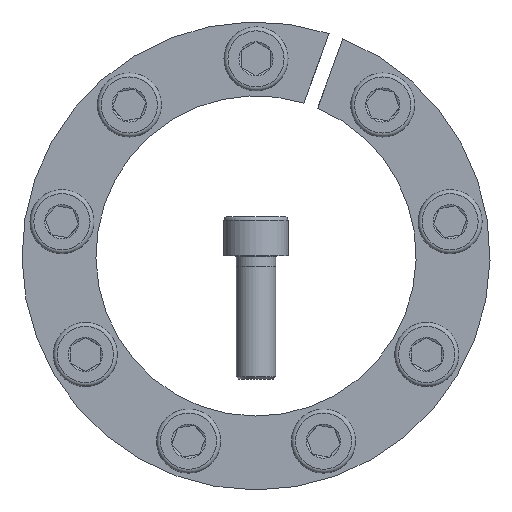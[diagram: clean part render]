
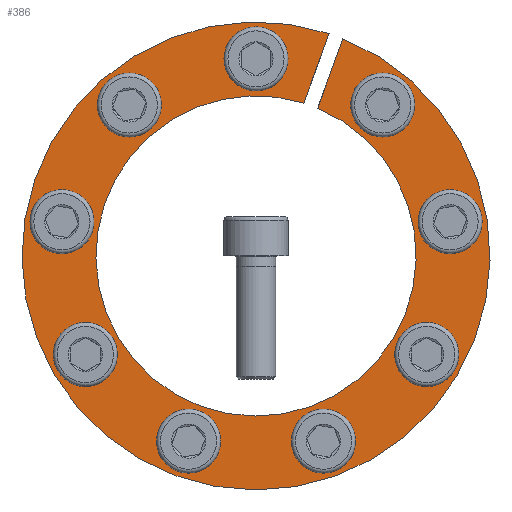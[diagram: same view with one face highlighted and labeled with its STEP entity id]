
A CAD part, front view. The second image highlights one B-rep face of the part: STEP entity #386.
In plain terms, the highlighted planar face has unit normal (0, -1, 0).
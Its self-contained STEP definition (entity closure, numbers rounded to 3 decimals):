
#386 = ADVANCED_FACE( '', ( #591, #592, #593, #594, #595, #596, #597, #598, #599, #600 ), #601, .F. );
#591 = FACE_BOUND( '', #765, .T. );
#592 = FACE_BOUND( '', #766, .T. );
#593 = FACE_BOUND( '', #767, .T. );
#594 = FACE_BOUND( '', #768, .T. );
#595 = FACE_OUTER_BOUND( '', #769, .T. );
#596 = FACE_BOUND( '', #770, .T. );
#597 = FACE_BOUND( '', #771, .T. );
#598 = FACE_BOUND( '', #772, .T. );
#599 = FACE_BOUND( '', #773, .T. );
#600 = FACE_BOUND( '', #774, .T. );
#601 = PLANE( '', #775 );
#765 = EDGE_LOOP( '', ( #988 ) );
#766 = EDGE_LOOP( '', ( #989 ) );
#767 = EDGE_LOOP( '', ( #990 ) );
#768 = EDGE_LOOP( '', ( #991 ) );
#769 = EDGE_LOOP( '', ( #992, #993, #994, #995 ) );
#770 = EDGE_LOOP( '', ( #996 ) );
#771 = EDGE_LOOP( '', ( #997 ) );
#772 = EDGE_LOOP( '', ( #998 ) );
#773 = EDGE_LOOP( '', ( #999 ) );
#774 = EDGE_LOOP( '', ( #1000 ) );
#775 = AXIS2_PLACEMENT_3D( '', #1001, #1002, #1003 );
#988 = ORIENTED_EDGE( '', *, *, #1336, .T. );
#989 = ORIENTED_EDGE( '', *, *, #1337, .T. );
#990 = ORIENTED_EDGE( '', *, *, #1338, .T. );
#991 = ORIENTED_EDGE( '', *, *, #1339, .T. );
#992 = ORIENTED_EDGE( '', *, *, #1334, .F. );
#993 = ORIENTED_EDGE( '', *, *, #1330, .F. );
#994 = ORIENTED_EDGE( '', *, *, #1340, .T. );
#995 = ORIENTED_EDGE( '', *, *, #1341, .F. );
#996 = ORIENTED_EDGE( '', *, *, #1342, .T. );
#997 = ORIENTED_EDGE( '', *, *, #1343, .T. );
#998 = ORIENTED_EDGE( '', *, *, #1344, .T. );
#999 = ORIENTED_EDGE( '', *, *, #1345, .T. );
#1000 = ORIENTED_EDGE( '', *, *, #1346, .T. );
#1001 = CARTESIAN_POINT( '', ( 0., 0., 47.5 ) );
#1002 = DIRECTION( '', ( 0., 1., 0. ) );
#1003 = DIRECTION( '', ( 0., 0., 1. ) );
#1330 = EDGE_CURVE( '', #1469, #1471, #1472, .T. );
#1334 = EDGE_CURVE( '', #1471, #1478, #1479, .T. );
#1336 = EDGE_CURVE( '', #1481, #1481, #1482, .T. );
#1337 = EDGE_CURVE( '', #1483, #1483, #1484, .T. );
#1338 = EDGE_CURVE( '', #1485, #1485, #1486, .T. );
#1339 = EDGE_CURVE( '', #1487, #1487, #1488, .T. );
#1340 = EDGE_CURVE( '', #1469, #1489, #1490, .T. );
#1341 = EDGE_CURVE( '', #1478, #1489, #1491, .T. );
#1342 = EDGE_CURVE( '', #1492, #1492, #1493, .T. );
#1343 = EDGE_CURVE( '', #1494, #1494, #1495, .T. );
#1344 = EDGE_CURVE( '', #1496, #1496, #1497, .T. );
#1345 = EDGE_CURVE( '', #1498, #1498, #1499, .T. );
#1346 = EDGE_CURVE( '', #1500, #1500, #1501, .T. );
#1469 = VERTEX_POINT( '', #1605 );
#1471 = VERTEX_POINT( '', #1608 );
#1472 = LINE( '', #1609, #1610 );
#1478 = VERTEX_POINT( '', #1618 );
#1479 = CIRCLE( '', #1619, 32.5 );
#1481 = VERTEX_POINT( '', #1622 );
#1482 = CIRCLE( '', #1623, 4. );
#1483 = VERTEX_POINT( '', #1624 );
#1484 = CIRCLE( '', #1625, 4. );
#1485 = VERTEX_POINT( '', #1626 );
#1486 = CIRCLE( '', #1627, 4. );
#1487 = VERTEX_POINT( '', #1628 );
#1488 = CIRCLE( '', #1629, 4. );
#1489 = VERTEX_POINT( '', #1630 );
#1490 = CIRCLE( '', #1631, 47.5 );
#1491 = LINE( '', #1632, #1633 );
#1492 = VERTEX_POINT( '', #1634 );
#1493 = CIRCLE( '', #1635, 4. );
#1494 = VERTEX_POINT( '', #1636 );
#1495 = CIRCLE( '', #1637, 4. );
#1496 = VERTEX_POINT( '', #1638 );
#1497 = CIRCLE( '', #1639, 4. );
#1498 = VERTEX_POINT( '', #1640 );
#1499 = CIRCLE( '', #1641, 4. );
#1500 = VERTEX_POINT( '', #1642 );
#1501 = CIRCLE( '', #1643, 4. );
#1605 = CARTESIAN_POINT( '', ( 14.828, 0., 45.126 ) );
#1608 = CARTESIAN_POINT( '', ( 9.694, 0., 31.02 ) );
#1609 = CARTESIAN_POINT( '', ( 14.836, 0., 45.148 ) );
#1610 = VECTOR( '', #1736, 1000. );
#1618 = CARTESIAN_POINT( '', ( 12.513, 0., 29.994 ) );
#1619 = AXIS2_PLACEMENT_3D( '', #1742, #1743, #1744 );
#1622 = CARTESIAN_POINT( '', ( -38.698, 0., 10.885 ) );
#1623 = AXIS2_PLACEMENT_3D( '', #1746, #1747, #1748 );
#1624 = CARTESIAN_POINT( '', ( -17.44, 0., -36.22 ) );
#1625 = AXIS2_PLACEMENT_3D( '', #1749, #1750, #1751 );
#1626 = CARTESIAN_POINT( '', ( 32.641, 0., -23.464 ) );
#1627 = AXIS2_PLACEMENT_3D( '', #1752, #1753, #1754 );
#1628 = CARTESIAN_POINT( '', ( 28.776, 0., 28.071 ) );
#1629 = AXIS2_PLACEMENT_3D( '', #1755, #1756, #1757 );
#1630 = CARTESIAN_POINT( '', ( 17.647, 0., 44.1 ) );
#1631 = AXIS2_PLACEMENT_3D( '', #1758, #1759, #1760 );
#1632 = CARTESIAN_POINT( '', ( 12.513, 0., 29.994 ) );
#1633 = VECTOR( '', #1761, 1000. );
#1634 = CARTESIAN_POINT( '', ( 4., 0., 40. ) );
#1635 = AXIS2_PLACEMENT_3D( '', #1762, #1763, #1764 );
#1636 = CARTESIAN_POINT( '', ( 40.087, 0., 3.007 ) );
#1637 = AXIS2_PLACEMENT_3D( '', #1765, #1766, #1767 );
#1638 = CARTESIAN_POINT( '', ( 9.922, 0., -38.956 ) );
#1639 = AXIS2_PLACEMENT_3D( '', #1768, #1769, #1770 );
#1640 = CARTESIAN_POINT( '', ( -36.641, 0., -16.536 ) );
#1641 = AXIS2_PLACEMENT_3D( '', #1771, #1772, #1773 );
#1642 = CARTESIAN_POINT( '', ( -22.647, 0., 33.213 ) );
#1643 = AXIS2_PLACEMENT_3D( '', #1774, #1775, #1776 );
#1736 = DIRECTION( '', ( -0.342, 0., -0.94 ) );
#1742 = CARTESIAN_POINT( '', ( 0., 0., 0. ) );
#1743 = DIRECTION( '', ( 0., -1., 0. ) );
#1744 = DIRECTION( '', ( 0., 0., -1. ) );
#1746 = CARTESIAN_POINT( '', ( -39.392, 0., 6.946 ) );
#1747 = DIRECTION( '', ( 0., 1., 0. ) );
#1748 = DIRECTION( '', ( 0.174, 0., 0.985 ) );
#1749 = CARTESIAN_POINT( '', ( -13.681, 0., -37.588 ) );
#1750 = DIRECTION( '', ( 0., 1., 0. ) );
#1751 = DIRECTION( '', ( -0.94, 0., 0.342 ) );
#1752 = CARTESIAN_POINT( '', ( 34.641, 0., -20. ) );
#1753 = DIRECTION( '', ( 0., 1., 0. ) );
#1754 = DIRECTION( '', ( -0.5, 0., -0.866 ) );
#1755 = CARTESIAN_POINT( '', ( 25.712, 0., 30.642 ) );
#1756 = DIRECTION( '', ( 0., 1., 0. ) );
#1757 = DIRECTION( '', ( 0.766, 0., -0.643 ) );
#1758 = CARTESIAN_POINT( '', ( 0., 0., 0. ) );
#1759 = DIRECTION( '', ( 0., -1., 0. ) );
#1760 = DIRECTION( '', ( 0., 0., -1. ) );
#1761 = DIRECTION( '', ( 0.342, 0., 0.94 ) );
#1762 = CARTESIAN_POINT( '', ( 0., 0., 40. ) );
#1763 = DIRECTION( '', ( 0., 1., 0. ) );
#1764 = DIRECTION( '', ( 1., 0., 0. ) );
#1765 = CARTESIAN_POINT( '', ( 39.392, 0., 6.946 ) );
#1766 = DIRECTION( '', ( 0., 1., 0. ) );
#1767 = DIRECTION( '', ( 0.174, 0., -0.985 ) );
#1768 = CARTESIAN_POINT( '', ( 13.681, 0., -37.588 ) );
#1769 = DIRECTION( '', ( 0., 1., 0. ) );
#1770 = DIRECTION( '', ( -0.94, 0., -0.342 ) );
#1771 = CARTESIAN_POINT( '', ( -34.641, 0., -20. ) );
#1772 = DIRECTION( '', ( 0., 1., 0. ) );
#1773 = DIRECTION( '', ( -0.5, 0., 0.866 ) );
#1774 = CARTESIAN_POINT( '', ( -25.712, 0., 30.642 ) );
#1775 = DIRECTION( '', ( 0., 1., 0. ) );
#1776 = DIRECTION( '', ( 0.766, 0., 0.643 ) );
